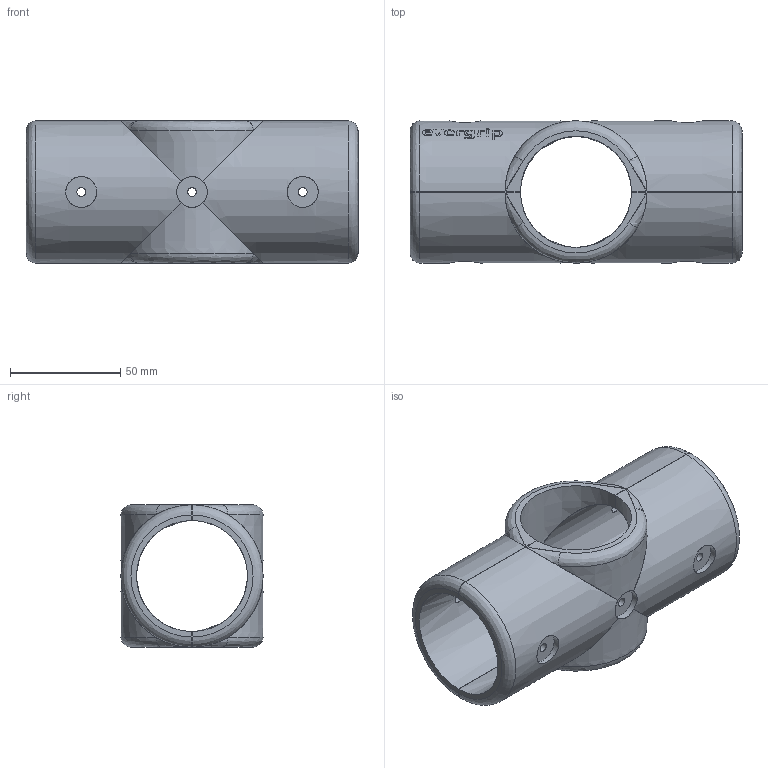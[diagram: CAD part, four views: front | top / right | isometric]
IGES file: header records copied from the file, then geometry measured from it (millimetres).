
Start section: SolidWorks IGES file using analytic representation for surfaces
Global section: file name: D:\Praca\Zlecenia prywatne\Konrad Izdebski Evergrip\KIE_018 Elementy z³¹czne\Dokumentacja\IGES\KIE_018.A13.IGS; native system: SolidWorks 2023; preprocessor: SolidWorks 2023; author: patry; date: 250122.201138; units: millimetre
Bounding box: 150.3 x 64.3 x 64.4 mm (x, y, z)
Surface area: 57764.7 mm2 (no closed solid volume)
Topology: 0 solids, 0 shells, 79 faces, 640 edges, 628 vertices
Faces by surface type: revolution 49, bspline 30
